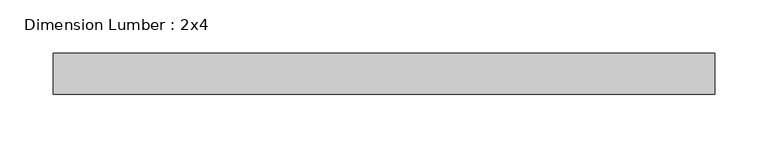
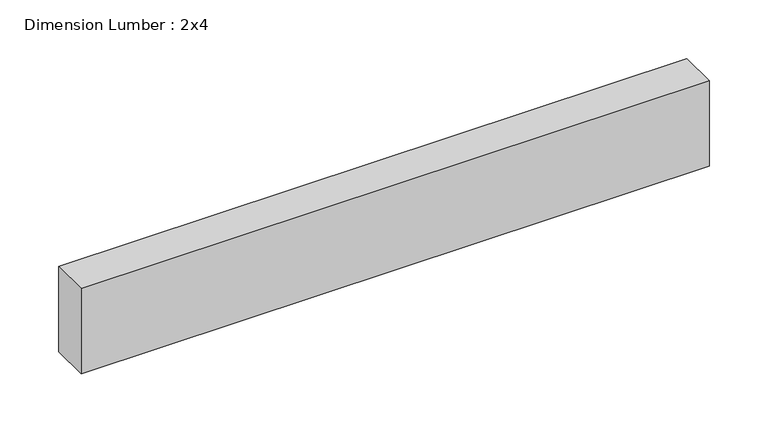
"""IFC4 building model written with IfcOpenShell, lengths in millimetres: beam geometry, Dimension Lumber : 2x4."""

from ifc_helpers import new_model, si_unit, frame, origin, place, context, project, spatial, polyline, outline, extrude, source, transform, mapped, element, save


def dimension_lumber_2x4_2f6887b8(model_context):
    return source(origin(), model_context, "Body", "SweptSolid", [
        extrude(outline(polyline([(309.1520758, 19.05), (309.1520758, -19.05), (-309.1520758, -19.05), (-309.1520758, 19.05), (309.1520758, 19.05)])), frame((0.0, 0.0, -44.45), z_axis=(0.0, 0.0, 1.0), x_axis=(1.0, 0.0, 0.0)), (0.0, 0.0, 1.0), 88.9),
    ])


if __name__ == "__main__":
    model = new_model("IFC4")
    model_context = context("Model", 3, world=origin())
    ifc_project = project(units=[si_unit("LENGTHUNIT", "METRE", prefix="MILLI")], contexts=[model_context])
    site = spatial("IfcSite", under=ifc_project)
    building = spatial("IfcBuilding", under=site)
    placement = place(None, origin())
    dimension_lumber_2x4_shape = dimension_lumber_2x4_2f6887b8(model_context)
    element("IfcBeam", 1, ObjectType="Dimension Lumber : 2x4", at=placement, inside=building, context=model_context, shape_type="MappedRepresentation", body=[
        mapped(dimension_lumber_2x4_shape, transform((0.0, 0.0, 0.0), x_axis=(1.0, 0.0, 0.0), y_axis=(0.0, 1.0, 0.0), z_axis=(0.0, 0.0, 1.0))),
    ])
    save(model, "model.ifc")
